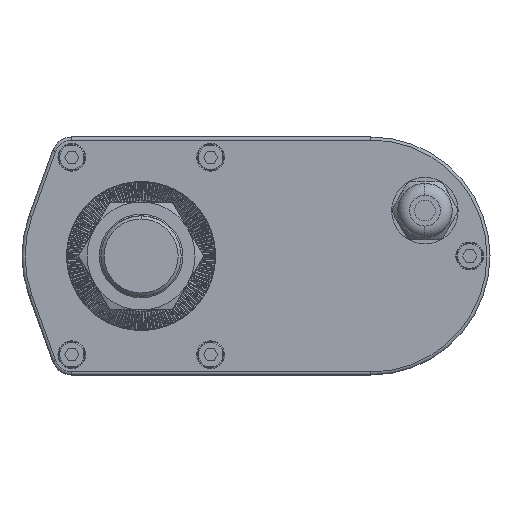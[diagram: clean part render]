
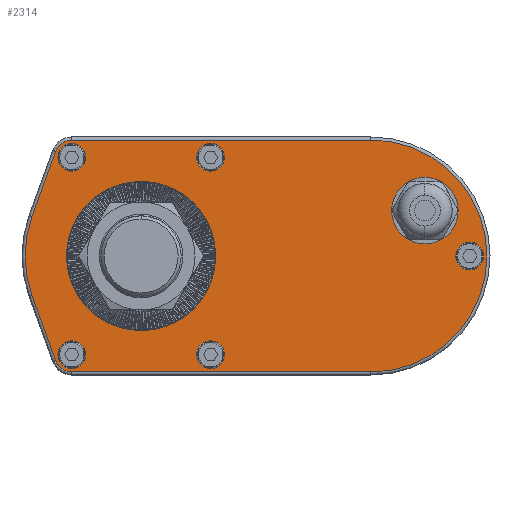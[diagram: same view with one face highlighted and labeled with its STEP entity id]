
A CAD part, left-side view. The second image highlights one B-rep face of the part: STEP entity #2314.
In plain terms, the highlighted planar face has unit normal (-1, 0, 0).
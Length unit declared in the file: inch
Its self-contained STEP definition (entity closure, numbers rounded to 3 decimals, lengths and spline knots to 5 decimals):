
#2314=ADVANCED_FACE('',(#6016,#6017,#6018,#6019,#6020,#6021,#6022,#6023),#6024,.F.);
#6016=FACE_BOUND('',#11310,.T.);
#6017=FACE_BOUND('',#11311,.T.);
#6018=FACE_BOUND('',#11312,.T.);
#6019=FACE_BOUND('',#11313,.T.);
#6020=FACE_BOUND('',#11314,.T.);
#6021=FACE_BOUND('',#11315,.T.);
#6022=FACE_BOUND('',#11316,.T.);
#6023=FACE_OUTER_BOUND('',#11317,.T.);
#6024=PLANE('',#11318);
#11310=EDGE_LOOP('',(#18352,#18353));
#11311=EDGE_LOOP('',(#18354,#18355));
#11312=EDGE_LOOP('',(#18356,#18357));
#11313=EDGE_LOOP('',(#18358,#18359));
#11314=EDGE_LOOP('',(#18360,#18361));
#11315=EDGE_LOOP('',(#18362,#18363));
#11316=EDGE_LOOP('',(#18364,#18365));
#11317=EDGE_LOOP('',(#18366,#18367,#18368,#18369,#18370,#18371,#18372,#18373));
#11318=AXIS2_PLACEMENT_3D('',#18374,#18375,#18376);
#18352=ORIENTED_EDGE('',*,*,#30814,.F.);
#18353=ORIENTED_EDGE('',*,*,#32194,.F.);
#18354=ORIENTED_EDGE('',*,*,#32195,.F.);
#18355=ORIENTED_EDGE('',*,*,#32196,.F.);
#18356=ORIENTED_EDGE('',*,*,#32197,.T.);
#18357=ORIENTED_EDGE('',*,*,#32198,.T.);
#18358=ORIENTED_EDGE('',*,*,#32199,.T.);
#18359=ORIENTED_EDGE('',*,*,#32200,.T.);
#18360=ORIENTED_EDGE('',*,*,#32201,.T.);
#18361=ORIENTED_EDGE('',*,*,#32202,.T.);
#18362=ORIENTED_EDGE('',*,*,#32203,.T.);
#18363=ORIENTED_EDGE('',*,*,#30980,.T.);
#18364=ORIENTED_EDGE('',*,*,#32204,.T.);
#18365=ORIENTED_EDGE('',*,*,#32205,.T.);
#18366=ORIENTED_EDGE('',*,*,#32206,.T.);
#18367=ORIENTED_EDGE('',*,*,#30800,.T.);
#18368=ORIENTED_EDGE('',*,*,#32207,.T.);
#18369=ORIENTED_EDGE('',*,*,#32208,.T.);
#18370=ORIENTED_EDGE('',*,*,#32209,.T.);
#18371=ORIENTED_EDGE('',*,*,#32210,.T.);
#18372=ORIENTED_EDGE('',*,*,#32211,.T.);
#18373=ORIENTED_EDGE('',*,*,#32212,.T.);
#18374=CARTESIAN_POINT('',(0.0,-2.93307,0.0));
#18375=DIRECTION('',(1.0,0.0,0.0));
#18376=DIRECTION('',(0.0,1.0,-0.0));
#30800=EDGE_CURVE('',#36654,#36652,#36655,.F.);
#30814=EDGE_CURVE('',#36677,#36679,#36680,.F.);
#30980=EDGE_CURVE('',#36972,#36970,#36973,.T.);
#32194=EDGE_CURVE('',#36679,#36677,#39022,.F.);
#32195=EDGE_CURVE('',#39023,#39024,#39025,.F.);
#32196=EDGE_CURVE('',#39024,#39023,#39026,.F.);
#32197=EDGE_CURVE('',#39027,#39028,#39029,.T.);
#32198=EDGE_CURVE('',#39028,#39027,#39030,.T.);
#32199=EDGE_CURVE('',#39031,#39032,#39033,.T.);
#32200=EDGE_CURVE('',#39032,#39031,#39034,.T.);
#32201=EDGE_CURVE('',#39035,#39036,#39037,.T.);
#32202=EDGE_CURVE('',#39036,#39035,#39038,.T.);
#32203=EDGE_CURVE('',#36970,#36972,#39039,.T.);
#32204=EDGE_CURVE('',#39040,#39041,#39042,.T.);
#32205=EDGE_CURVE('',#39041,#39040,#39043,.T.);
#32206=EDGE_CURVE('',#39044,#36654,#39045,.F.);
#32207=EDGE_CURVE('',#36652,#39046,#39047,.F.);
#32208=EDGE_CURVE('',#39046,#39048,#39049,.F.);
#32209=EDGE_CURVE('',#39048,#39050,#39051,.F.);
#32210=EDGE_CURVE('',#39050,#39052,#39053,.F.);
#32211=EDGE_CURVE('',#39052,#39054,#39055,.F.);
#32212=EDGE_CURVE('',#39054,#39044,#39056,.F.);
#36652=VERTEX_POINT('',#44913);
#36654=VERTEX_POINT('',#44915);
#36655=LINE('',#44916,#44917);
#36677=VERTEX_POINT('',#44944);
#36679=VERTEX_POINT('',#44947);
#36680=CIRCLE('',#44948,0.3248);
#36970=VERTEX_POINT('',#45337);
#36972=VERTEX_POINT('',#45340);
#36973=CIRCLE('',#45341,0.17717);
#39022=CIRCLE('',#48096,0.3248);
#39023=VERTEX_POINT('',#48097);
#39024=VERTEX_POINT('',#48098);
#39025=CIRCLE('',#48099,0.94882);
#39026=CIRCLE('',#48100,0.94882);
#39027=VERTEX_POINT('',#48101);
#39028=VERTEX_POINT('',#48102);
#39029=CIRCLE('',#48103,0.17717);
#39030=CIRCLE('',#48104,0.17717);
#39031=VERTEX_POINT('',#48105);
#39032=VERTEX_POINT('',#48106);
#39033=CIRCLE('',#48107,0.17717);
#39034=CIRCLE('',#48108,0.17717);
#39035=VERTEX_POINT('',#48109);
#39036=VERTEX_POINT('',#48110);
#39037=CIRCLE('',#48111,0.17717);
#39038=CIRCLE('',#48112,0.17717);
#39039=CIRCLE('',#48113,0.17717);
#39040=VERTEX_POINT('',#48114);
#39041=VERTEX_POINT('',#48115);
#39042=CIRCLE('',#48116,0.17717);
#39043=CIRCLE('',#48117,0.17717);
#39044=VERTEX_POINT('',#48118);
#39045=CIRCLE('',#48119,1.48031);
#39046=VERTEX_POINT('',#48120);
#39047=CIRCLE('',#48121,0.22047);
#39048=VERTEX_POINT('',#48122);
#39049=LINE('',#48123,#48124);
#39050=VERTEX_POINT('',#48125);
#39051=CIRCLE('',#48126,1.48031);
#39052=VERTEX_POINT('',#48127);
#39053=LINE('',#48128,#48129);
#39054=VERTEX_POINT('',#48130);
#39055=CIRCLE('',#48131,0.22047);
#39056=LINE('',#48132,#48133);
#44913=CARTESIAN_POINT('',(0.0,1.0916,-1.33479));
#44915=CARTESIAN_POINT('',(0.0,1.39217,-0.50319));
#44916=CARTESIAN_POINT('',(0.0,1.0916,-1.33479));
#44917=VECTOR('',#55881,39.37008);
#44944=CARTESIAN_POINT('',(0.0,-3.62205,0.25394));
#44947=CARTESIAN_POINT('',(0.0,-3.62205,0.90354));
#44948=AXIS2_PLACEMENT_3D('',#55900,#55901,#55902);
#45337=CARTESIAN_POINT('',(0.0,-0.8874,1.08268));
#45340=CARTESIAN_POINT('',(0.0,-0.8874,1.43701));
#45341=AXIS2_PLACEMENT_3D('',#56096,#56097,#56098);
#48096=AXIS2_PLACEMENT_3D('',#57712,#57713,#57714);
#48097=CARTESIAN_POINT('',(0.0,0.0,-0.94882));
#48098=CARTESIAN_POINT('',(0.0,0.,0.94882));
#48099=AXIS2_PLACEMENT_3D('',#57715,#57716,#57717);
#48100=AXIS2_PLACEMENT_3D('',#57718,#57719,#57720);
#48101=CARTESIAN_POINT('',(0.0,-4.19449,-0.17717));
#48102=CARTESIAN_POINT('',(0.0,-4.19449,0.17717));
#48103=AXIS2_PLACEMENT_3D('',#57721,#57722,#57723);
#48104=AXIS2_PLACEMENT_3D('',#57724,#57725,#57726);
#48105=CARTESIAN_POINT('',(0.0,0.88425,1.08268));
#48106=CARTESIAN_POINT('',(0.0,0.88425,1.43701));
#48107=AXIS2_PLACEMENT_3D('',#57727,#57728,#57729);
#48108=AXIS2_PLACEMENT_3D('',#57730,#57731,#57732);
#48109=CARTESIAN_POINT('',(0.0,-0.8874,-1.43701));
#48110=CARTESIAN_POINT('',(0.0,-0.8874,-1.08268));
#48111=AXIS2_PLACEMENT_3D('',#57733,#57734,#57735);
#48112=AXIS2_PLACEMENT_3D('',#57736,#57737,#57738);
#48113=AXIS2_PLACEMENT_3D('',#57739,#57740,#57741);
#48114=CARTESIAN_POINT('',(0.0,0.88425,-1.43701));
#48115=CARTESIAN_POINT('',(0.0,0.88425,-1.08268));
#48116=AXIS2_PLACEMENT_3D('',#57742,#57743,#57744);
#48117=AXIS2_PLACEMENT_3D('',#57745,#57746,#57747);
#48118=CARTESIAN_POINT('',(0.0,1.39217,0.50319));
#48119=AXIS2_PLACEMENT_3D('',#57748,#57749,#57750);
#48120=CARTESIAN_POINT('',(0.0,0.88425,-1.48031));
#48121=AXIS2_PLACEMENT_3D('',#57751,#57752,#57753);
#48122=CARTESIAN_POINT('',(0.0,-2.93307,-1.48031));
#48123=CARTESIAN_POINT('',(0.0,-2.93307,-1.48031));
#48124=VECTOR('',#57754,39.37008);
#48125=CARTESIAN_POINT('',(0.0,-2.93307,1.48031));
#48126=AXIS2_PLACEMENT_3D('',#57755,#57756,#57757);
#48127=CARTESIAN_POINT('',(0.0,0.88425,1.48031));
#48128=CARTESIAN_POINT('',(0.0,0.88425,1.48031));
#48129=VECTOR('',#57758,39.37008);
#48130=CARTESIAN_POINT('',(0.0,1.0916,1.33479));
#48131=AXIS2_PLACEMENT_3D('',#57759,#57760,#57761);
#48132=CARTESIAN_POINT('',(0.0,1.39217,0.50319));
#48133=VECTOR('',#57762,39.37008);
#55881=DIRECTION('',(0.0,0.34,0.94));
#55900=CARTESIAN_POINT('',(0.0,-3.62205,0.57874));
#55901=DIRECTION('',(1.0,0.0,0.0));
#55902=DIRECTION('',(0.0,0.0,-1.0));
#56096=CARTESIAN_POINT('',(0.0,-0.8874,1.25984));
#56097=DIRECTION('',(1.0,0.0,0.0));
#56098=DIRECTION('',(0.0,0.0,-1.0));
#57712=CARTESIAN_POINT('',(0.0,-3.62205,0.57874));
#57713=DIRECTION('',(1.0,0.0,0.0));
#57714=DIRECTION('',(0.0,0.0,-1.0));
#57715=CARTESIAN_POINT('',(0.0,0.0,0.0));
#57716=DIRECTION('',(1.0,0.0,0.0));
#57717=DIRECTION('',(0.0,0.0,-1.0));
#57718=CARTESIAN_POINT('',(0.0,0.0,0.0));
#57719=DIRECTION('',(1.0,0.0,0.0));
#57720=DIRECTION('',(0.0,0.0,-1.0));
#57721=CARTESIAN_POINT('',(0.0,-4.19449,0.0));
#57722=DIRECTION('',(1.0,0.0,0.0));
#57723=DIRECTION('',(0.0,0.0,-1.0));
#57724=CARTESIAN_POINT('',(0.0,-4.19449,0.0));
#57725=DIRECTION('',(1.0,0.0,0.0));
#57726=DIRECTION('',(0.0,0.0,-1.0));
#57727=CARTESIAN_POINT('',(0.0,0.88425,1.25984));
#57728=DIRECTION('',(1.0,0.0,0.0));
#57729=DIRECTION('',(0.0,0.0,-1.0));
#57730=CARTESIAN_POINT('',(0.0,0.88425,1.25984));
#57731=DIRECTION('',(1.0,0.0,0.0));
#57732=DIRECTION('',(0.0,0.0,-1.0));
#57733=CARTESIAN_POINT('',(0.0,-0.8874,-1.25984));
#57734=DIRECTION('',(1.0,0.0,0.0));
#57735=DIRECTION('',(0.0,0.0,-1.0));
#57736=CARTESIAN_POINT('',(0.0,-0.8874,-1.25984));
#57737=DIRECTION('',(1.0,0.0,0.0));
#57738=DIRECTION('',(0.0,0.0,-1.0));
#57739=CARTESIAN_POINT('',(0.0,-0.8874,1.25984));
#57740=DIRECTION('',(1.0,0.0,0.0));
#57741=DIRECTION('',(0.0,0.0,-1.0));
#57742=CARTESIAN_POINT('',(0.0,0.88425,-1.25984));
#57743=DIRECTION('',(1.0,0.0,0.0));
#57744=DIRECTION('',(0.0,0.0,-1.0));
#57745=CARTESIAN_POINT('',(0.0,0.88425,-1.25984));
#57746=DIRECTION('',(1.0,0.0,0.0));
#57747=DIRECTION('',(0.0,0.0,-1.0));
#57748=CARTESIAN_POINT('',(0.0,0.,0.0));
#57749=DIRECTION('',(1.0,0.0,0.0));
#57750=DIRECTION('',(0.0,0.0,-1.0));
#57751=CARTESIAN_POINT('',(0.0,0.88425,-1.25984));
#57752=DIRECTION('',(1.0,0.0,0.0));
#57753=DIRECTION('',(0.0,0.0,-1.0));
#57754=DIRECTION('',(0.0,1.0,0.0));
#57755=CARTESIAN_POINT('',(0.0,-2.93307,0.0));
#57756=DIRECTION('',(1.0,0.0,0.0));
#57757=DIRECTION('',(0.0,0.0,-1.0));
#57758=DIRECTION('',(0.0,-1.0,0.0));
#57759=CARTESIAN_POINT('',(0.0,0.88425,1.25984));
#57760=DIRECTION('',(1.0,0.0,0.0));
#57761=DIRECTION('',(0.0,0.0,-1.0));
#57762=DIRECTION('',(0.0,-0.34,0.94));
